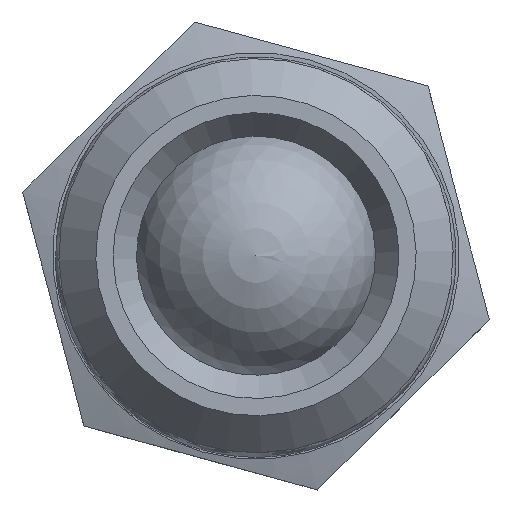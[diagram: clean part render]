
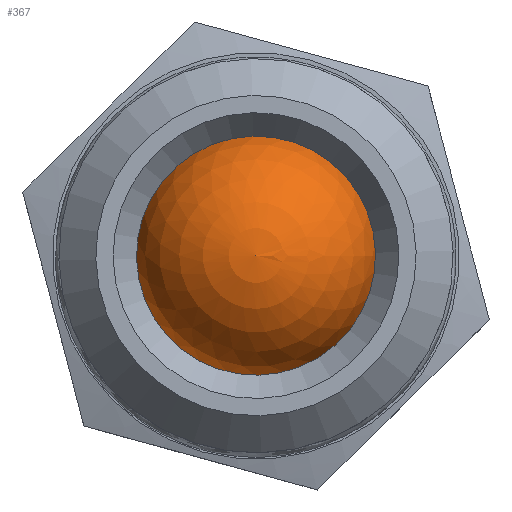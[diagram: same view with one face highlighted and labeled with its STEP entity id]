
A CAD part, top view. The second image highlights one B-rep face of the part: STEP entity #367.
In plain terms, the highlighted spherical face has radius 5 mm.
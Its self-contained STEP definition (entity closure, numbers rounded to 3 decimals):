
#367 = ADVANCED_FACE( '', ( #700, #701 ), #702, .T. );
#700 = FACE_BOUND( '', #1569, .T. );
#701 = FACE_OUTER_BOUND( '', #1570, .T. );
#702 = SPHERICAL_SURFACE( '', #1571, 5. );
#1569 = VERTEX_LOOP( '', #6305 );
#1570 = EDGE_LOOP( '', ( #6306 ) );
#1571 = AXIS2_PLACEMENT_3D( '', #6307, #6308, #6309 );
#6305 = VERTEX_POINT( '', #6904 );
#6306 = ORIENTED_EDGE( '', *, *, #6905, .F. );
#6307 = CARTESIAN_POINT( '', ( 0., 0., 6.5 ) );
#6308 = DIRECTION( '', ( 0., 0., 1. ) );
#6309 = DIRECTION( '', ( 1., 0., 0. ) );
#6904 = CARTESIAN_POINT( '', ( 0., 0., 11.5 ) );
#6905 = EDGE_CURVE( '', #7245, #7245, #7246, .T. );
#7245 = VERTEX_POINT( '', #10830 );
#7246 = CIRCLE( '', #10831, 5. );
#10830 = CARTESIAN_POINT( '', ( -5., 0., 6.5 ) );
#10831 = AXIS2_PLACEMENT_3D( '', #15008, #15009, #15010 );
#15008 = CARTESIAN_POINT( '', ( 0., 0., 6.5 ) );
#15009 = DIRECTION( '', ( 0., 0., -1. ) );
#15010 = DIRECTION( '', ( -1., 0., 0. ) );
